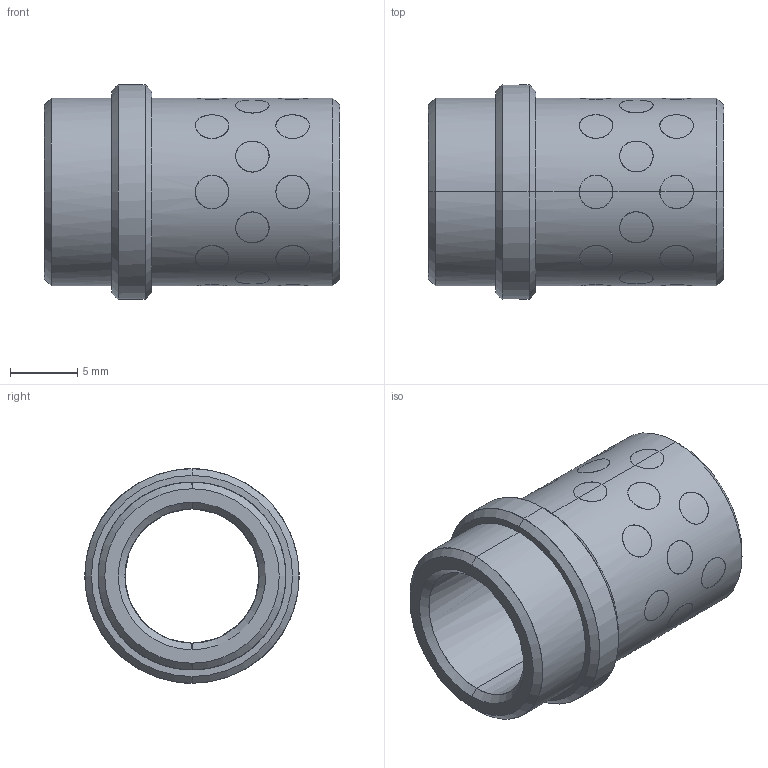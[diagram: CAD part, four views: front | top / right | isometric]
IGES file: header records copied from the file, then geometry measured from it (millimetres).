
Start section: START RECORD GO HERE.
Global section: file name: G31210017.igs; native system: DASSAULT SYSTEMES CATIA V5 R20 - www.3ds.com; preprocessor: CATIA Version 5 Release 20 ; author: r.borello; organization: CFTORINO; date: 20190624.122210; units: millimetre
Bounding box: 22 x 16 x 16 mm (x, y, z)
Surface area: 2605.8 mm2 (no closed solid volume)
Topology: 0 solids, 0 shells, 176 faces, 768 edges, 768 vertices
Faces by surface type: revolution 172, plane 4
